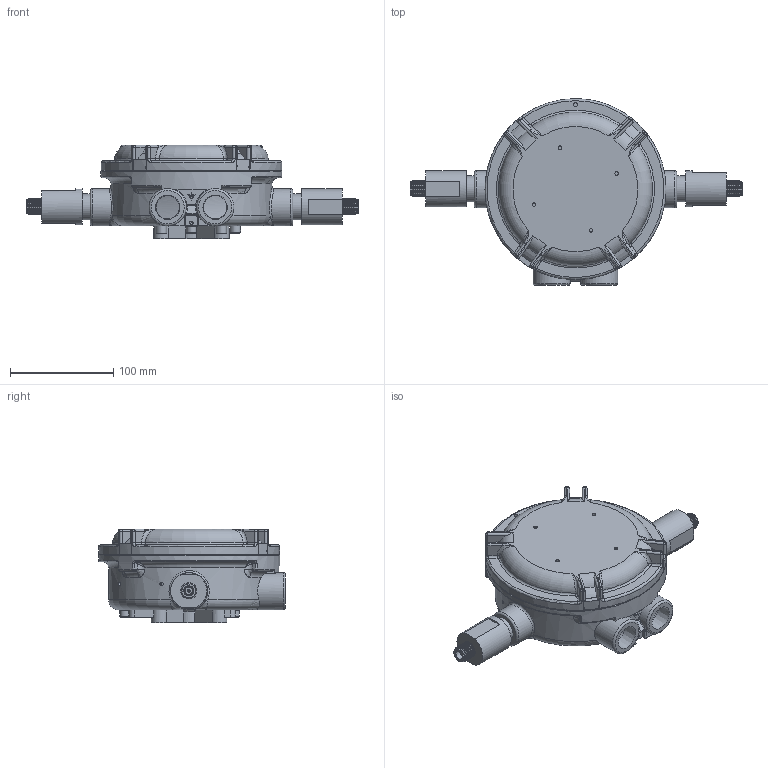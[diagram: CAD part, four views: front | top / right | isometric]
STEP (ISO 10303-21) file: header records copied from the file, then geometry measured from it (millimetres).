
FILE_DESCRIPTION(('FreeCAD Model'),'2;1');
FILE_NAME('Y:/SolexyUS-data/Solexy-public/Publ_Sales/04-stp dwg files/STP/WS_2Coupler.step','2020-02-28T16:11:20',('Author'),(''), 'Open CASCADE STEP processor 7.3','FreeCAD','Unknown');
FILE_SCHEMA(('AUTOMOTIVE_DESIGN { 1 0 10303 214 1 1 1 1 }'));
Length unit declared in the file: millimetre
Products named in the file (1): Fusion003
Bounding box: 321.14 x 180.5 x 90.5 mm (x, y, z)
Volume: 1710068.2 mm3; surface area: 155846.4 mm2
Topology: 1 solids, 36 shells, 815 faces, 1948 edges, 1171 vertices
Faces by surface type: cylinder 237, plane 214, cone 148, bspline 110, torus 87, sphere 19
Full cylindrical faces by diameter (mm): 1.72 x2, 3 x2, 3.242 x10, 3.5 x8, 3.683 x2, 4 x1, 4.917 x4, 5.309 x2, 6.35 x2, 6.647 x4, 7.1 x2, 9.791 x1, 10 x1, 13.2 x2, 13.8 x2, 14.732 x14, 15.67 x2, 17.394 x2, 17.462 x4, 22.631 x4, 24.994 x2, 34.925 x2, 36 x4, 132 x1, 150 x2, 151 x2, 152 x2, 175 x2
Entity records: 36897 total; most frequent: CARTESIAN_POINT 13526, ORIENTED_EDGE 3772, DIRECTION 3480, EDGE_CURVE 1886, AXIS2_PLACEMENT_3D 1502, VERTEX_POINT 1171, FACE_BOUND 892, EDGE_LOOP 892
